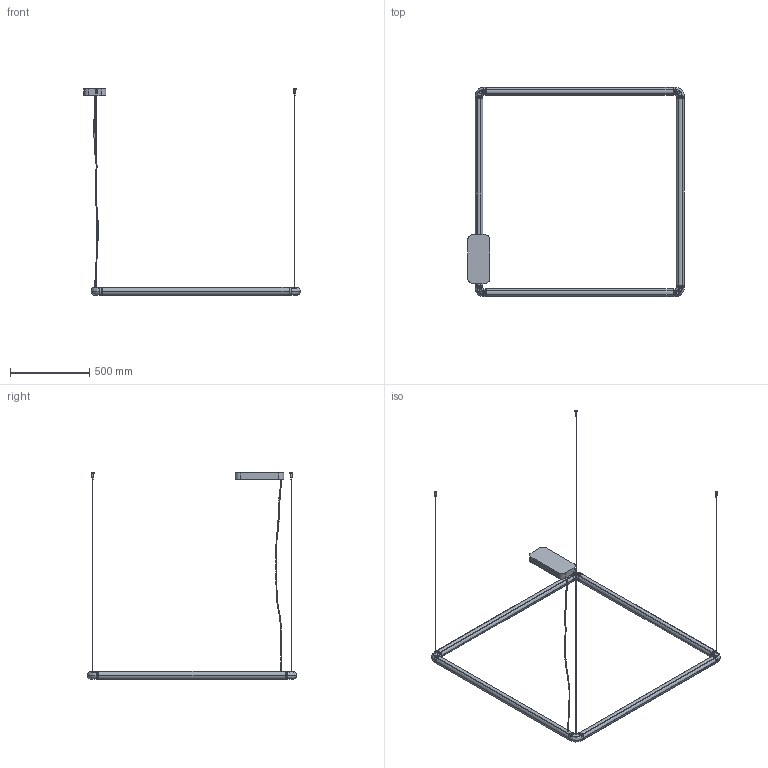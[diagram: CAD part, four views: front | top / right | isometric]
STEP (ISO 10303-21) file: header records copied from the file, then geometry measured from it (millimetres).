
FILE_DESCRIPTION(/* description */ (''),/* implementation_level */ '2;1');
FILE_NAME(/* name */ 'Alphabet of Light-Square-120-Suspension',/* time_stamp */ '2026-08-26T11:48:16+02:00',/* author */ (''),/* organization */ (''),/* preprocessor_version */ 'ST-DEVELOPER v16.5',/* originating_system */ 'Rhino 7.38',/* authorisation */ '');
FILE_SCHEMA (('AUTOMOTIVE_DESIGN'));
Length unit declared in the file: millimetre
Products named in the file (2): Document; Blocco 02 07
Assembly tree (4 placements, depth 2):
  Document
    Blocco 02 07  x4
Bounding box: 1366.39 x 1320.91 x 1303.71 mm (x, y, z)
Volume: 11567678 mm3; surface area: 1315729.8 mm2
Topology: 34 solids, 102 shells, 611 faces, 1660 edges, 1186 vertices
Faces by surface type: plane 353, bspline 134, cylinder 124
Entity records: 26810 total; most frequent: CARTESIAN_POINT 16928, ORIENTED_EDGE 2604, EDGE_CURVE 1360, VERTEX_POINT 886, B_SPLINE_CURVE_WITH_KNOTS 682, EDGE_LOOP 568, ADVANCED_FACE 563, FACE_OUTER_BOUND 563
